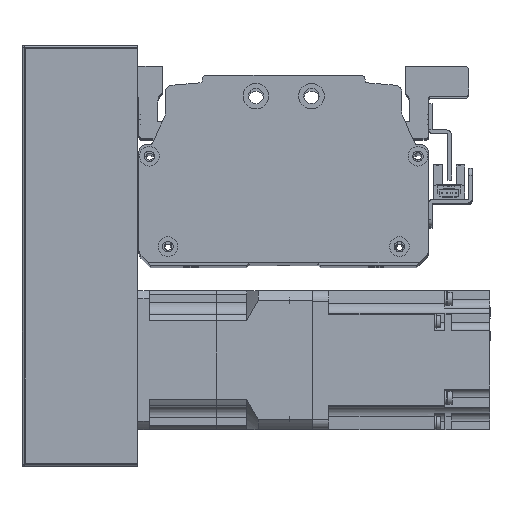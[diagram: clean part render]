
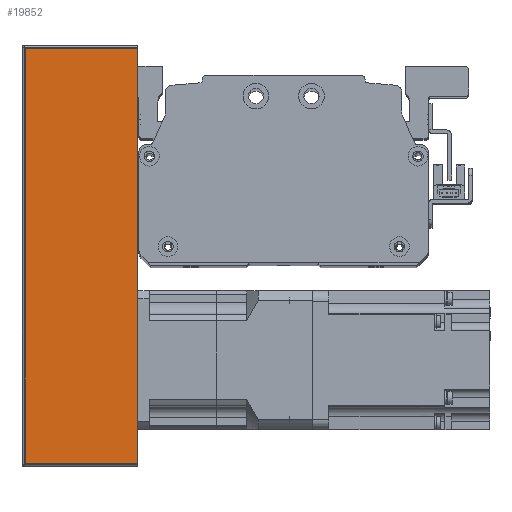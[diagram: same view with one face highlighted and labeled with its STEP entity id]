
A CAD part, top view. The second image highlights one B-rep face of the part: STEP entity #19852.
In plain terms, the highlighted planar face has unit normal (0, 0, 1) as drawn and (0, 1, 0) by its records, which use the part's own axes.
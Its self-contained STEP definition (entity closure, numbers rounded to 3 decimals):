
#609=PLANE('',#21820);
#1812=LINE('',#32689,#3436);
#1829=LINE('',#32743,#3453);
#1834=LINE('',#32767,#3458);
#1853=LINE('',#32830,#3477);
#3436=VECTOR('',#26423,10.);
#3453=VECTOR('',#26476,10.);
#3458=VECTOR('',#26513,10.);
#3477=VECTOR('',#26596,10.);
#5834=FACE_OUTER_BOUND('',#7278,.T.);
#7278=EDGE_LOOP('',(#17149,#17150,#17151,#17152));
#10119=VERTEX_POINT('',#32686);
#10120=VERTEX_POINT('',#32688);
#10138=VERTEX_POINT('',#32740);
#10139=VERTEX_POINT('',#32742);
#12558=EDGE_CURVE('',#10119,#10120,#1812,.T.);
#12586=EDGE_CURVE('',#10138,#10139,#1829,.T.);
#12600=EDGE_CURVE('',#10120,#10138,#1834,.T.);
#12631=EDGE_CURVE('',#10139,#10119,#1853,.T.);
#17149=ORIENTED_EDGE('',*,*,#12586,.F.);
#17150=ORIENTED_EDGE('',*,*,#12600,.F.);
#17151=ORIENTED_EDGE('',*,*,#12558,.F.);
#17152=ORIENTED_EDGE('',*,*,#12631,.F.);
#19852=ADVANCED_FACE('',(#5834),#609,.T.);
#21820=AXIS2_PLACEMENT_3D('',#32829,#26594,#26595);
#26423=DIRECTION('',(-1.,0.,0.));
#26476=DIRECTION('',(1.,0.,0.));
#26513=DIRECTION('',(0.,0.,-1.));
#26594=DIRECTION('center_axis',(0.,1.,0.));
#26595=DIRECTION('ref_axis',(-1.,0.,0.));
#26596=DIRECTION('',(0.,0.,1.));
#32686=CARTESIAN_POINT('',(90.,38.,25.));
#32688=CARTESIAN_POINT('',(-90.,38.,25.));
#32689=CARTESIAN_POINT('',(-91.,38.,25.));
#32740=CARTESIAN_POINT('',(-90.,38.,-24.));
#32742=CARTESIAN_POINT('',(90.,38.,-24.));
#32743=CARTESIAN_POINT('',(45.5,38.,-24.));
#32767=CARTESIAN_POINT('',(-90.,38.,0.));
#32829=CARTESIAN_POINT('Origin',(91.,38.,0.));
#32830=CARTESIAN_POINT('',(90.,38.,0.));
